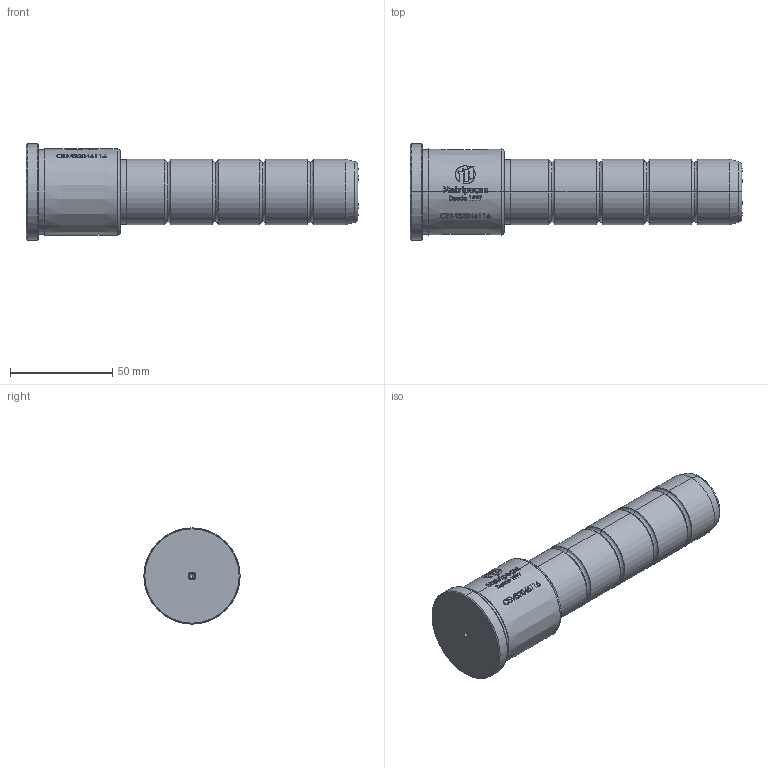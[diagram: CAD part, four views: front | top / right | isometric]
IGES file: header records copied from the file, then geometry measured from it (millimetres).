
Start section: SolidWorks IGES file using analytic representation for surfaces
Global section: file name: E:\1.TRIVECTOR\Clientes\MATRIPEÇAS\PEÇAS_CATALOGO_SITE\4.CEM - COLUNA CONJ. EXTRATOR (CATÁLOGO)\CEM32046116.IGS; native system: SolidWorks 2024; preprocessor: SolidWorks 2024; author: Gabriel Techio; date: 260902.115930; units: millimetre
Bounding box: 162 x 47 x 47 mm (x, y, z)
Surface area: 21747.6 mm2 (no closed solid volume)
Topology: 0 solids, 0 shells, 517 faces, 5504 edges, 5500 vertices
Faces by surface type: bspline 413, revolution 104
